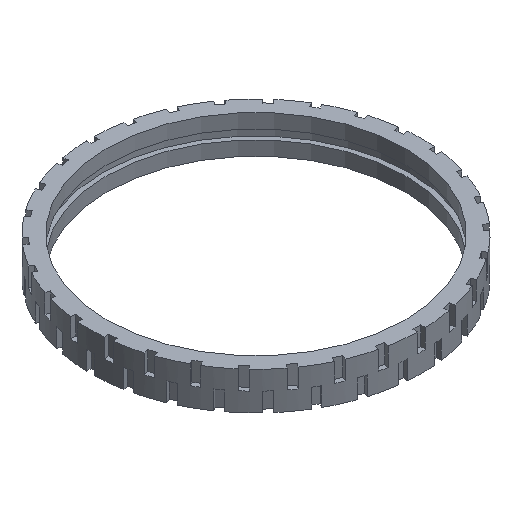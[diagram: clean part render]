
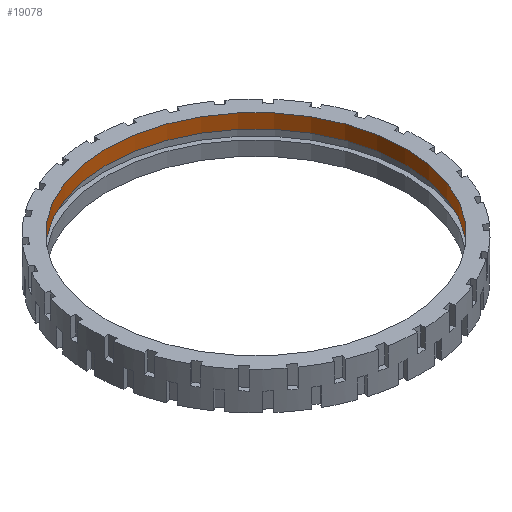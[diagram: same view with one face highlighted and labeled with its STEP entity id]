
A CAD part, isometric view. The second image highlights one B-rep face of the part: STEP entity #19078.
In plain terms, the highlighted cylindrical face has radius 47.25 mm (diameter 94.5 mm), a full revolution.
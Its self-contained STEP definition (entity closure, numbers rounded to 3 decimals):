
#101 = PLANE('',#102);
#102 = AXIS2_PLACEMENT_3D('',#103,#104,#105);
#103 = CARTESIAN_POINT('',(0.,0.,12.));
#104 = DIRECTION('',(0.,0.,1.));
#105 = DIRECTION('',(1.,0.,-0.));
#14821 = EDGE_CURVE('',#14822,#14822,#14824,.T.);
#14822 = VERTEX_POINT('',#14823);
#14823 = CARTESIAN_POINT('',(47.25,0.,12.));
#14824 = SURFACE_CURVE('',#14825,(#14830,#14837),.PCURVE_S1.);
#14825 = CIRCLE('',#14826,47.25);
#14826 = AXIS2_PLACEMENT_3D('',#14827,#14828,#14829);
#14827 = CARTESIAN_POINT('',(0.,0.,12.)
  );
#14828 = DIRECTION('',(0.,0.,1.));
#14829 = DIRECTION('',(1.,0.,0.));
#14830 = PCURVE('',#101,#14831);
#14831 = DEFINITIONAL_REPRESENTATION('',(#14832),#14836);
#14832 = CIRCLE('',#14833,47.25);
#14833 = AXIS2_PLACEMENT_2D('',#14834,#14835);
#14834 = CARTESIAN_POINT('',(0.,0.));
#14835 = DIRECTION('',(1.,0.));
#14836 = ( GEOMETRIC_REPRESENTATION_CONTEXT(2) 
PARAMETRIC_REPRESENTATION_CONTEXT() REPRESENTATION_CONTEXT('2D SPACE',''
  ) );
#14837 = PCURVE('',#14838,#14843);
#14838 = CYLINDRICAL_SURFACE('',#14839,47.25);
#14839 = AXIS2_PLACEMENT_3D('',#14840,#14841,#14842);
#14840 = CARTESIAN_POINT('',(0.,0.,0.));
#14841 = DIRECTION('',(-0.,-0.,-1.));
#14842 = DIRECTION('',(1.,0.,0.));
#14843 = DEFINITIONAL_REPRESENTATION('',(#14844),#14848);
#14844 = LINE('',#14845,#14846);
#14845 = CARTESIAN_POINT('',(-0.,-12.));
#14846 = VECTOR('',#14847,1.);
#14847 = DIRECTION('',(-1.,0.));
#14848 = ( GEOMETRIC_REPRESENTATION_CONTEXT(2) 
PARAMETRIC_REPRESENTATION_CONTEXT() REPRESENTATION_CONTEXT('2D SPACE',''
  ) );
#19078 = ADVANCED_FACE('',(#19079),#14838,.F.);
#19079 = FACE_BOUND('',#19080,.T.);
#19080 = EDGE_LOOP('',(#19081,#19114,#19135,#19136));
#19081 = ORIENTED_EDGE('',*,*,#19082,.T.);
#19082 = EDGE_CURVE('',#19083,#19083,#19085,.T.);
#19083 = VERTEX_POINT('',#19084);
#19084 = CARTESIAN_POINT('',(47.25,0.,7.5));
#19085 = SURFACE_CURVE('',#19086,(#19091,#19098),.PCURVE_S1.);
#19086 = CIRCLE('',#19087,47.25);
#19087 = AXIS2_PLACEMENT_3D('',#19088,#19089,#19090);
#19088 = CARTESIAN_POINT('',(0.,0.,7.5)
  );
#19089 = DIRECTION('',(0.,0.,-1.));
#19090 = DIRECTION('',(1.,0.,0.));
#19091 = PCURVE('',#14838,#19092);
#19092 = DEFINITIONAL_REPRESENTATION('',(#19093),#19097);
#19093 = LINE('',#19094,#19095);
#19094 = CARTESIAN_POINT('',(-6.283,-7.5));
#19095 = VECTOR('',#19096,1.);
#19096 = DIRECTION('',(1.,-0.));
#19097 = ( GEOMETRIC_REPRESENTATION_CONTEXT(2) 
PARAMETRIC_REPRESENTATION_CONTEXT() REPRESENTATION_CONTEXT('2D SPACE',''
  ) );
#19098 = PCURVE('',#19099,#19104);
#19099 = PLANE('',#19100);
#19100 = AXIS2_PLACEMENT_3D('',#19101,#19102,#19103);
#19101 = CARTESIAN_POINT('',(0.,0.,7.5)
  );
#19102 = DIRECTION('',(0.,0.,1.));
#19103 = DIRECTION('',(1.,0.,-0.));
#19104 = DEFINITIONAL_REPRESENTATION('',(#19105),#19113);
#19105 = ( BOUNDED_CURVE() B_SPLINE_CURVE(2,(#19106,#19107,#19108,#19109
    ,#19110,#19111,#19112),.UNSPECIFIED.,.T.,.F.) 
B_SPLINE_CURVE_WITH_KNOTS((1,2,2,2,2,1),(-2.094,0.,
    2.094,4.189,6.283,8.378),
.UNSPECIFIED.) CURVE() GEOMETRIC_REPRESENTATION_ITEM() 
RATIONAL_B_SPLINE_CURVE((1.,0.5,1.,0.5,1.,0.5,1.)) REPRESENTATION_ITEM(
  '') );
#19106 = CARTESIAN_POINT('',(47.25,0.));
#19107 = CARTESIAN_POINT('',(47.25,-81.839));
#19108 = CARTESIAN_POINT('',(-23.625,-40.92));
#19109 = CARTESIAN_POINT('',(-94.5,0.));
#19110 = CARTESIAN_POINT('',(-23.625,40.92));
#19111 = CARTESIAN_POINT('',(47.25,81.839));
#19112 = CARTESIAN_POINT('',(47.25,0.));
#19113 = ( GEOMETRIC_REPRESENTATION_CONTEXT(2) 
PARAMETRIC_REPRESENTATION_CONTEXT() REPRESENTATION_CONTEXT('2D SPACE',''
  ) );
#19114 = ORIENTED_EDGE('',*,*,#19115,.T.);
#19115 = EDGE_CURVE('',#19083,#14822,#19116,.T.);
#19116 = SEAM_CURVE('',#19117,(#19121,#19128),.PCURVE_S1.);
#19117 = LINE('',#19118,#19119);
#19118 = CARTESIAN_POINT('',(47.25,0.,0.));
#19119 = VECTOR('',#19120,1.);
#19120 = DIRECTION('',(0.,0.,1.));
#19121 = PCURVE('',#14838,#19122);
#19122 = DEFINITIONAL_REPRESENTATION('',(#19123),#19127);
#19123 = LINE('',#19124,#19125);
#19124 = CARTESIAN_POINT('',(-6.283,0.));
#19125 = VECTOR('',#19126,1.);
#19126 = DIRECTION('',(-0.,-1.));
#19127 = ( GEOMETRIC_REPRESENTATION_CONTEXT(2) 
PARAMETRIC_REPRESENTATION_CONTEXT() REPRESENTATION_CONTEXT('2D SPACE',''
  ) );
#19128 = PCURVE('',#14838,#19129);
#19129 = DEFINITIONAL_REPRESENTATION('',(#19130),#19134);
#19130 = LINE('',#19131,#19132);
#19131 = CARTESIAN_POINT('',(-0.,0.));
#19132 = VECTOR('',#19133,1.);
#19133 = DIRECTION('',(-0.,-1.));
#19134 = ( GEOMETRIC_REPRESENTATION_CONTEXT(2) 
PARAMETRIC_REPRESENTATION_CONTEXT() REPRESENTATION_CONTEXT('2D SPACE',''
  ) );
#19135 = ORIENTED_EDGE('',*,*,#14821,.T.);
#19136 = ORIENTED_EDGE('',*,*,#19115,.F.);
